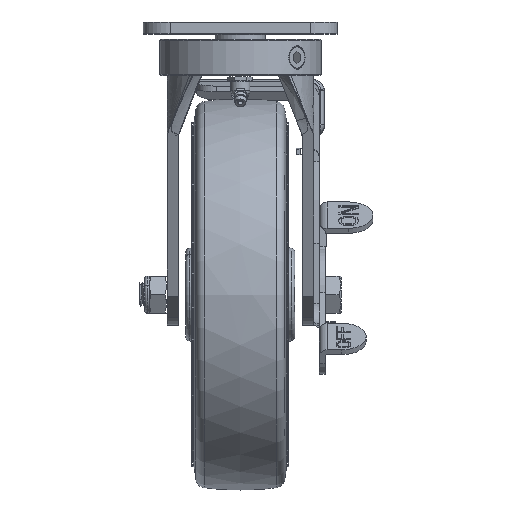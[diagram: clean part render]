
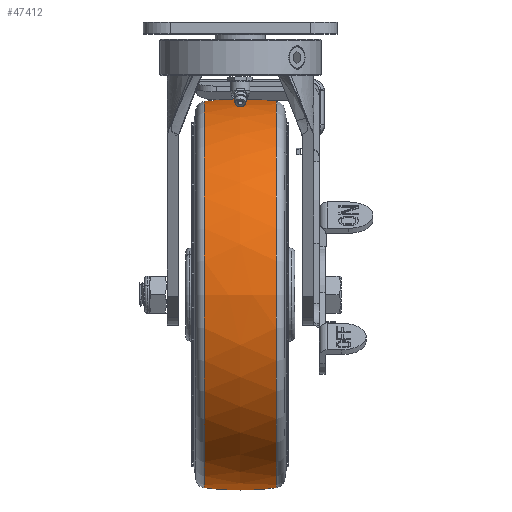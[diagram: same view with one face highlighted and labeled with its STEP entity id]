
A CAD part, top view. The second image highlights one B-rep face of the part: STEP entity #47412.
In plain terms, the highlighted free-form (B-spline) face has degree [3, 3] with [7, 4] control points.
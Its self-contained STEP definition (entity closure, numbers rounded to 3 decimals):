
#46904=CARTESIAN_POINT('',(-18.524,-121.8,-42.8));
#46905=DIRECTION('',(-1.,0.,0.));
#46906=DIRECTION('',(0.,-1.,-0.002));
#46907=AXIS2_PLACEMENT_3D('',#46904,#46905,#46906);
#46914=CARTESIAN_POINT('',(0.,-171.3,
-42.902));
#46915=DIRECTION('',(0.,-0.002,1.));
#46916=DIRECTION('',(0.123,0.992,0.002));
#46917=AXIS2_PLACEMENT_3D('',#46914,#46915,#46916);
#46919=CARTESIAN_POINT('',(18.524,-121.8,-42.8));
#46920=DIRECTION('',(-1.,0.,0.));
#46921=DIRECTION('',(0.,-1.,-0.002));
#46922=AXIS2_PLACEMENT_3D('',#46919,#46920,#46921);
#46924=CARTESIAN_POINT('',(0.,-171.3,
-42.902));
#46925=DIRECTION('',(0.,-0.002,1.));
#46926=DIRECTION('',(0.,1.,0.002));
#46927=AXIS2_PLACEMENT_3D('',#46924,#46925,#46926);
#46944=CARTESIAN_POINT('',(0.,-72.3,
-42.698));
#46945=DIRECTION('',(0.,0.002,-1.));
#46946=DIRECTION('',(0.,-1.,-0.002));
#46947=AXIS2_PLACEMENT_3D('',#46944,#46945,#46946);
#46949=CARTESIAN_POINT('',(0.,-72.3,
-42.698));
#46950=DIRECTION('',(0.,0.002,-1.));
#46951=DIRECTION('',(0.123,-0.992,-0.002));
#46952=AXIS2_PLACEMENT_3D('',#46949,#46950,#46951);
#46984=CARTESIAN_POINT('',(18.524,-221.152,
-43.004));
#46986=VERTEX_POINT('',#46984);
#46988=CARTESIAN_POINT('',(18.524,-22.448,
-42.596));
#46990=VERTEX_POINT('',#46988);
#46991=CARTESIAN_POINT('',(0.,-222.3,
-43.006));
#46992=CARTESIAN_POINT('',(-18.524,-221.152,
-43.004));
#46993=VERTEX_POINT('',#46991);
#46994=VERTEX_POINT('',#46992);
#46995=CARTESIAN_POINT('',(0.,-21.3,
-42.594));
#46996=CARTESIAN_POINT('',(-18.524,-22.448,
-42.596));
#46997=VERTEX_POINT('',#46995);
#46998=VERTEX_POINT('',#46996);
#47371=CARTESIAN_POINT('',(-19.261,-22.725,
-48.829));
#47372=CARTESIAN_POINT('',(-6.456,-21.07,
-48.93));
#47373=CARTESIAN_POINT('',(6.456,-21.07,
-48.93));
#47374=CARTESIAN_POINT('',(19.261,-22.725,
-48.829));
#47375=CARTESIAN_POINT('',(-19.261,-19.015,
12.142));
#47376=CARTESIAN_POINT('',(-6.456,-17.298,
13.059));
#47377=CARTESIAN_POINT('',(6.456,-17.298,
13.059));
#47378=CARTESIAN_POINT('',(19.261,-19.015,
12.142));
#47379=CARTESIAN_POINT('',(-19.261,-60.921,
56.583));
#47380=CARTESIAN_POINT('',(-6.456,-59.904,
58.244));
#47381=CARTESIAN_POINT('',(6.456,-59.904,
58.244));
#47382=CARTESIAN_POINT('',(19.261,-60.921,
56.583));
#47383=CARTESIAN_POINT('',(-19.261,-122.004,
56.458));
#47384=CARTESIAN_POINT('',(-6.456,-122.007,
58.116));
#47385=CARTESIAN_POINT('',(6.456,-122.007,
58.116));
#47386=CARTESIAN_POINT('',(19.261,-122.004,
56.458));
#47387=CARTESIAN_POINT('',(-19.261,-183.087,
56.333));
#47388=CARTESIAN_POINT('',(-6.456,-184.111,
57.988));
#47389=CARTESIAN_POINT('',(6.456,-184.111,
57.988));
#47390=CARTESIAN_POINT('',(19.261,-183.087,
56.333));
#47391=CARTESIAN_POINT('',(-19.261,-224.81,
11.719));
#47392=CARTESIAN_POINT('',(-6.456,-226.531,
12.63));
#47393=CARTESIAN_POINT('',(6.456,-226.531,
12.63));
#47394=CARTESIAN_POINT('',(19.261,-224.81,
11.719));
#47395=CARTESIAN_POINT('',(-19.261,-220.849,
-49.236));
#47396=CARTESIAN_POINT('',(-6.456,-222.504,
-49.343));
#47397=CARTESIAN_POINT('',(6.456,-222.504,
-49.343));
#47398=CARTESIAN_POINT('',(19.261,-220.849,
-49.236));
#47399=(BOUNDED_SURFACE()B_SPLINE_SURFACE(3,3,((#47371,#47372,#47373,#47374),(
#47375,#47376,#47377,#47378),(#47379,#47380,#47381,#47382),(#47383,#47384,
#47385,#47386),(#47387,#47388,#47389,#47390),(#47391,#47392,#47393,#47394),(
#47395,#47396,#47397,#47398)),.UNSPECIFIED.,.F.,.F.,.F.)B_SPLINE_SURFACE_WITH_KNOTS((4,3,4),(4,4),(0.,1.,2.),(0.,1.),.UNSPECIFIED.)GEOMETRIC_REPRESENTATION_ITEM()RATIONAL_B_SPLINE_SURFACE(((1.192,1.186,
1.186,1.192),(0.941,0.936,
0.936,0.941),(0.941,0.936,
0.936,0.941),(1.192,1.186,
1.186,1.192),(0.941,0.936,
0.936,0.941),(0.941,0.936,
0.936,0.941),(1.192,1.186,
1.186,1.192)))REPRESENTATION_ITEM('')SURFACE());
#47401=ORIENTED_EDGE('',*,*,#47400,.F.);
#47402=ORIENTED_EDGE('',*,*,#47076,.F.);
#47404=ORIENTED_EDGE('',*,*,#47403,.T.);
#47406=ORIENTED_EDGE('',*,*,#47405,.T.);
#47407=ORIENTED_EDGE('',*,*,#47356,.T.);
#47409=ORIENTED_EDGE('',*,*,#47408,.F.);
#47410=EDGE_LOOP('',(#47401,#47402,#47404,#47406,#47407,#47409));
#47411=FACE_OUTER_BOUND('',#47410,.F.);
#46908=CIRCLE('',#46907,99.352);
#46918=CIRCLE('',#46917,150.);
#46923=CIRCLE('',#46922,99.352);
#46928=CIRCLE('',#46927,150.);
#46948=CIRCLE('',#46947,150.);
#46953=CIRCLE('',#46952,150.);
#47076=EDGE_CURVE('',#46986,#46990,#46923,.T.);
#47356=EDGE_CURVE('',#46994,#46998,#46908,.T.);
#47400=EDGE_CURVE('',#46990,#46997,#46918,.T.);
#47403=EDGE_CURVE('',#46986,#46993,#46953,.T.);
#47405=EDGE_CURVE('',#46993,#46994,#46948,.T.);
#47408=EDGE_CURVE('',#46997,#46998,#46928,.T.);
#47412=ADVANCED_FACE('',(#47411),#47399,.T.);
